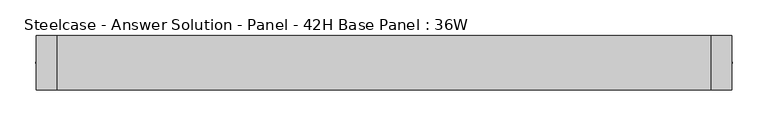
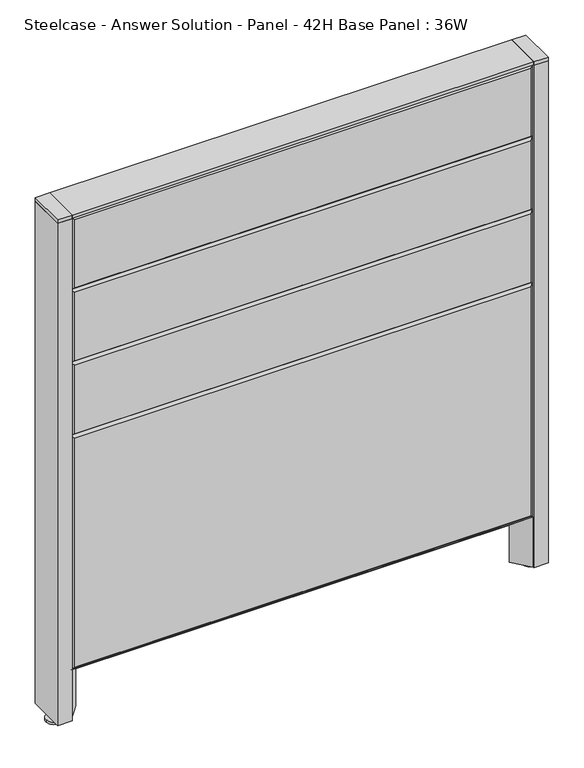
"""IFC4 building model written with IfcOpenShell, lengths in millimetres: furniture geometry, Steelcase - Answer Solution - Panel - 42H Base Panel : 36W."""

import ifcopenshell
import ifcopenshell.guid

model = None  # the IFC model being written
_history = None  # IfcOwnerHistory: only IFC2X3 demands one
_inside = {}  # id of a spatial element -> (the spatial element, [elements in it])
_under = {}  # id of a project, library or spatial element -> (it, [spatial elements below it])
_declared = {}  # id of a project -> (the project, [libraries it declares])
_typed = {}  # id of a type object -> (the type object, [elements of that type])
_made_of = {}  # id of a material, layer set ... -> (it, [elements and type objects made of it])


def new_model(schema):
    """Start an empty IFC model of exactly this schema.

    Asked for "IFC4X3", IfcOpenShell would pick the latest addendum, in which some entities
    have other attributes; the version numbers below select the first issue.
    IFC2X3 requires an IfcOwnerHistory on every rooted entity: one is made here for all.
    """
    global model, _history
    if schema == "IFC4X3":
        model = ifcopenshell.file(schema_version=(4, 3, 0, 0))
    else:
        model = ifcopenshell.file(schema=schema)
    _inside.clear()
    _under.clear()
    _declared.clear()
    _typed.clear()
    _made_of.clear()
    _history = None
    if model.schema == "IFC2X3":
        org = make("IfcOrganization", Name="unknown")
        user = make(
            "IfcPersonAndOrganization",
            ThePerson=make("IfcPerson", FamilyName="unknown"),
            TheOrganization=org,
        )
        app = make(
            "IfcApplication",
            ApplicationDeveloper=org,
            Version="unknown",
            ApplicationFullName="unknown",
            ApplicationIdentifier="unknown",
        )
        _history = make(
            "IfcOwnerHistory",
            OwningUser=user,
            OwningApplication=app,
            ChangeAction="ADDED",
            CreationDate=0,
        )
    return model


def make(cls, **values):
    """One entity of the class cls with the attributes given. An attribute that is None is left unset."""
    return model.create_entity(
        cls, **{name: value for name, value in values.items() if value is not None}
    )


def rooted(cls, **values):
    """An entity with a GlobalId (a new one), such as an element, a storey or a relation."""
    return make(cls, GlobalId=ifcopenshell.guid.new(), OwnerHistory=_history, **values)


def si_unit(unit_type, name, prefix=None):
    """IfcSIUnit, for example si_unit("LENGTHUNIT", "METRE", prefix="MILLI")."""
    return make("IfcSIUnit", UnitType=unit_type, Prefix=prefix, Name=name)


def assignment(units):
    """IfcUnitAssignment: the units of a project."""
    return None if units is None else make("IfcUnitAssignment", Units=units)


def point(xyz):
    """IfcCartesianPoint."""
    return None if xyz is None else make("IfcCartesianPoint", Coordinates=xyz)


def direction(xyz):
    """IfcDirection."""
    return None if xyz is None else make("IfcDirection", DirectionRatios=xyz)


def frame(location, z_axis=None, x_axis=None):
    """IfcAxis2Placement3D, a coordinate frame: its origin and axes. An axis left out is left unset."""
    return make(
        "IfcAxis2Placement3D",
        Location=point(location),
        Axis=direction(z_axis),
        RefDirection=direction(x_axis),
    )


def frame_2d(location, x_axis=None):
    """IfcAxis2Placement2D, a coordinate frame in the plane: its origin and x axis."""
    return make(
        "IfcAxis2Placement2D", Location=point(location), RefDirection=direction(x_axis)
    )


def origin():
    """The frame at (0, 0, 0) with its axes left unset."""
    return frame((0.0, 0.0, 0.0))


def place(relative_to, where):
    """IfcLocalPlacement: puts the frame where relative to a parent placement (None: the world)."""
    return make(
        "IfcLocalPlacement", PlacementRelTo=relative_to, RelativePlacement=where
    )


def context(
    kind, dimensions, precision=None, world=None, true_north=None, identifier=None
):
    """IfcGeometricRepresentationContext, for example the 3D "Model" context."""
    return make(
        "IfcGeometricRepresentationContext",
        ContextIdentifier=identifier,
        ContextType=kind,
        CoordinateSpaceDimension=dimensions,
        Precision=precision,
        WorldCoordinateSystem=world,
        TrueNorth=true_north,
    )


def project(units=None, contexts=None):
    """IfcProject with its units and contexts."""
    return rooted(
        "IfcProject",
        Name="project",
        RepresentationContexts=contexts,
        UnitsInContext=assignment(units),
    )


def spatial(cls, under=None, at=None, **own):
    """A site, building, storey or space (cls), placed at a placement, below another one or the project."""
    s = rooted(cls, ObjectPlacement=at, **own)
    if under is not None:
        _under.setdefault(under.id(), (under, []))[1].append(s)
    return s


def polyline(points):
    """IfcPolyline through the points."""
    return make("IfcPolyline", Points=[point(p) for p in points])


def circle_curve(where, radius):
    """IfcCircle in the frame where."""
    return make("IfcCircle", Position=where, Radius=radius)


def trimmed(basis, trim1, trim2, sense, master):
    """IfcTrimmedCurve: the piece of a basis curve between two trims."""
    return make(
        "IfcTrimmedCurve",
        BasisCurve=basis,
        Trim1=trim1,
        Trim2=trim2,
        SenseAgreement=sense,
        MasterRepresentation=master,
    )


def segment(curve, same_sense, transition):
    """IfcCompositeCurveSegment."""
    return make(
        "IfcCompositeCurveSegment",
        Transition=transition,
        SameSense=same_sense,
        ParentCurve=curve,
    )


def composite_curve(segments, self_intersect=None):
    """IfcCompositeCurve: segments joined end to end."""
    return make("IfcCompositeCurve", Segments=segments, SelfIntersect=self_intersect)


def outline(outer, holes=None, kind="AREA"):
    """IfcArbitraryClosedProfileDef: a profile drawn as a closed curve; with holes, ...WithVoids."""
    if holes is None:
        return make("IfcArbitraryClosedProfileDef", ProfileType=kind, OuterCurve=outer)
    return make(
        "IfcArbitraryProfileDefWithVoids",
        ProfileType=kind,
        OuterCurve=outer,
        InnerCurves=holes,
    )


def extrude(swept, where, along, depth):
    """IfcExtrudedAreaSolid: the profile swept, set in the frame where, extruded along a direction by depth."""
    return make(
        "IfcExtrudedAreaSolid",
        SweptArea=swept,
        Position=where,
        ExtrudedDirection=direction(along),
        Depth=depth,
    )


def faces_of(points, faces, orient=None, outer=None):
    """IfcFace entities. A face is a list of loops; a loop is a list of indices into points, from 0.

    orient and outer hold one flag for each loop. By default every Orientation is true, the
    first loop of a face is its IfcFaceOuterBound and the others are IfcFaceBound.
    """
    made = []
    for i, loops in enumerate(faces):
        bounds = []
        for j, loop in enumerate(loops):
            is_outer = j == 0 if outer is None else outer[i][j]
            bounds.append(
                make(
                    "IfcFaceOuterBound" if is_outer else "IfcFaceBound",
                    Bound=make("IfcPolyLoop", Polygon=[points[k] for k in loop]),
                    Orientation=True if orient is None else orient[i][j],
                )
            )
        made.append(make("IfcFace", Bounds=bounds))
    return made


def faceted_brep(points, faces, orient=None, outer=None, voids=None):
    """IfcFacetedBrep: a solid bounded by flat faces; with voids (closed shells), ...WithVoids."""
    shared = [point(p) for p in points]
    hull = make("IfcClosedShell", CfsFaces=faces_of(shared, faces, orient, outer))
    if voids is None:
        return make("IfcFacetedBrep", Outer=hull)
    return make(
        "IfcFacetedBrepWithVoids",
        Outer=hull,
        Voids=[
            make(cls, CfsFaces=faces_of(shared, fs, o, b)) for cls, fs, o, b in voids
        ],
    )


def shape(context_of_items, identifier, shape_type, items):
    """IfcShapeRepresentation: the items that make up one representation, for example the "Body"."""
    return make(
        "IfcShapeRepresentation",
        ContextOfItems=context_of_items,
        RepresentationIdentifier=identifier,
        RepresentationType=shape_type,
        Items=items,
    )


def source(mapping_origin, context_of_items, identifier, shape_type, items):
    """IfcRepresentationMap: a shape defined once, which mapped items show again and again."""
    return make(
        "IfcRepresentationMap",
        MappingOrigin=mapping_origin,
        MappedRepresentation=shape(context_of_items, identifier, shape_type, items),
    )


def transform(
    local_origin,
    x_axis=None,
    y_axis=None,
    z_axis=None,
    scale=None,
    scale2=None,
    scale3=None,
    uniform=True,
):
    """IfcCartesianTransformationOperator3D, or its non-uniform kind. x_axis, y_axis, z_axis: its Axis1, 2, 3."""
    if uniform:
        return make(
            "IfcCartesianTransformationOperator3D",
            Axis1=direction(x_axis),
            Axis2=direction(y_axis),
            LocalOrigin=point(local_origin),
            Scale=scale,
            Axis3=direction(z_axis),
        )
    return make(
        "IfcCartesianTransformationOperator3DnonUniform",
        Axis1=direction(x_axis),
        Axis2=direction(y_axis),
        LocalOrigin=point(local_origin),
        Scale=scale,
        Axis3=direction(z_axis),
        Scale2=scale2,
        Scale3=scale3,
    )


def mapped(mapping_source, mapping_target):
    """IfcMappedItem: shows the shape of a source again, moved by a transform."""
    return make(
        "IfcMappedItem", MappingSource=mapping_source, MappingTarget=mapping_target
    )


def made_of(thing, what):
    """Note that an element or type object is made of a material, layer set ...; save() writes the relation."""
    if what is not None:
        _made_of.setdefault(what.id(), (what, []))[1].append(thing)
    return thing


def element(
    cls,
    number,
    at=None,
    inside=None,
    cuts=None,
    type_object=None,
    material=None,
    context=None,
    identifier="Body",
    shape_type=None,
    held_by="IfcProductDefinitionShape",
    body=None,
    shapes=None,
    **own,
):
    """One element of the class cls, such as IfcWall. Its Tag is "e" and its number.

    at: its placement. inside: the storey or other place that contains it. cuts: it is an
    opening in that element (IfcRelVoidsElement). A single representation is given by context,
    identifier, shape_type and body (its items); several are given by shapes. held_by: the class
    of the entity that holds the representations. save() writes the other relations.
    """
    e = rooted(cls, Tag="e%d" % number, ObjectPlacement=at, **own)
    if body is not None:
        shapes = [shape(context, identifier, shape_type, body)]
    if shapes is not None:
        e.Representation = make(held_by, Representations=shapes)
    if inside is not None:
        _inside.setdefault(inside.id(), (inside, []))[1].append(e)
    if cuts is not None:
        rooted(
            "IfcRelVoidsElement", RelatingBuildingElement=cuts, RelatedOpeningElement=e
        )
    if type_object is not None:
        _typed.setdefault(type_object.id(), (type_object, []))[1].append(e)
    return made_of(e, material)


def aggregate(whole, parts):
    """IfcRelAggregates: a whole, such as a stair, and the parts it consists of."""
    return rooted("IfcRelAggregates", RelatingObject=whole, RelatedObjects=parts)


def save(model, path):
    """Write the relations noted so far, then the file.

    IfcRelAggregates (storeys below a building ...), IfcRelContainedInSpatialStructure (elements
    in a storey), IfcRelDefinesByType, IfcRelAssociatesMaterial and IfcRelDeclares: one each for
    every whole, place, type object, material and project.
    """
    for whole, parts in _under.values():
        aggregate(whole, parts)
    for where, things in _inside.values():
        rooted(
            "IfcRelContainedInSpatialStructure",
            RelatedElements=things,
            RelatingStructure=where,
        )
    for kind, things in _typed.values():
        rooted("IfcRelDefinesByType", RelatedObjects=things, RelatingType=kind)
    for what, things in _made_of.values():
        rooted("IfcRelAssociatesMaterial", RelatedObjects=things, RelatingMaterial=what)
    for by, libraries in _declared.values():
        rooted("IfcRelDeclares", RelatingContext=by, RelatedDefinitions=libraries)
    model.write(path)


def steelcase_answer_solution_panel_42h_base_panel_36w_f64cd9cb(model_context):
    return source(origin(), model_context, "Body", "SolidModel", [
        extrude(outline(composite_curve([segment(trimmed(circle_curve(frame_2d((471.424, 0.0039657)), 5.08), [point((476.504, 0.0039657))], [point((466.344, 0.0039657))], False, "CARTESIAN"), True, "CONTINUOUS"), segment(trimmed(circle_curve(frame_2d((471.424, 0.0039657)), 5.08), [point((466.344, 0.0039657))], [point((476.504, 0.0039657))], False, "CARTESIAN"), True, "CONTINUOUS")], self_intersect=False)), frame((0.0, 0.0, 5.0799671), z_axis=(0.0, 0.0, 1.0), x_axis=(1.0, 0.0, 0.0)), (0.0, 0.0, 1.0), 10.414),
        extrude(outline(composite_curve([segment(trimmed(circle_curve(frame_2d((471.424, 0.0039657)), 15.24), [point((486.664, 0.0039657))], [point((456.184, 0.0039657))], False, "CARTESIAN"), True, "CONTINUOUS"), segment(trimmed(circle_curve(frame_2d((471.424, 0.0039657)), 15.24), [point((456.184, 0.0039657))], [point((486.664, 0.0039657))], False, "CARTESIAN"), True, "CONTINUOUS")], self_intersect=False)), frame((0.0, 0.0, -3.29e-05), z_axis=(0.0, 0.0, 1.0), x_axis=(1.0, 0.0, 0.0)), (0.0, 0.0, 1.0), 5.08),
        extrude(outline(polyline([(485.775, 38.1039851), (485.775, -38.0960149), (457.2, -38.0960149), (457.2, 38.1039851), (485.775, 38.1039851)])), frame((0.0, 0.0, 1065.8348), z_axis=(0.0, 0.0, 1.0), x_axis=(1.0, 0.0, 0.0)), (0.0, 0.0, 1.0), 7.3151671),
        extrude(outline(polyline([(485.775, 38.1039851), (485.775, -38.0960149), (457.2, -38.0960149), (457.2, 38.1039851), (485.775, 38.1039851)])), frame((0.0, 0.0, 15.4939671), z_axis=(0.0, 0.0, 1.0), x_axis=(1.0, 0.0, 0.0)), (0.0, 0.0, 1.0), 1050.3408329),
        extrude(outline(composite_curve([segment(trimmed(circle_curve(frame_2d((-471.424, 0.0039657)), 5.08), [point((-476.504, 0.0039657))], [point((-466.344, 0.0039657))], False, "CARTESIAN"), True, "CONTINUOUS"), segment(trimmed(circle_curve(frame_2d((-471.424, 0.0039657)), 5.08), [point((-466.344, 0.0039657))], [point((-476.504, 0.0039657))], False, "CARTESIAN"), True, "CONTINUOUS")], self_intersect=False)), frame((0.0, 0.0, 5.0799671), z_axis=(0.0, 0.0, 1.0), x_axis=(1.0, 0.0, 0.0)), (0.0, 0.0, 1.0), 10.414),
        extrude(outline(composite_curve([segment(trimmed(circle_curve(frame_2d((-471.424, 0.0039657)), 15.24), [point((-486.664, 0.0039657))], [point((-456.184, 0.0039657))], False, "CARTESIAN"), True, "CONTINUOUS"), segment(trimmed(circle_curve(frame_2d((-471.424, 0.0039657)), 15.24), [point((-456.184, 0.0039657))], [point((-486.664, 0.0039657))], False, "CARTESIAN"), True, "CONTINUOUS")], self_intersect=False)), frame((0.0, 0.0, -3.29e-05), z_axis=(0.0, 0.0, 1.0), x_axis=(1.0, 0.0, 0.0)), (0.0, 0.0, 1.0), 5.08),
        extrude(outline(polyline([(-485.775, 38.1039851), (-457.2, 38.1039851), (-457.2, -38.0960149), (-485.775, -38.0960149), (-485.775, 38.1039851)])), frame((0.0, 0.0, 1065.8348), z_axis=(0.0, 0.0, 1.0), x_axis=(1.0, 0.0, 0.0)), (0.0, 0.0, 1.0), 7.3151671),
        extrude(outline(polyline([(-485.775, 38.1039851), (-457.2, 38.1039851), (-457.2, -38.0960149), (-485.775, -38.0960149), (-485.775, 38.1039851)])), frame((0.0, 0.0, 15.4939671), z_axis=(0.0, 0.0, 1.0), x_axis=(1.0, 0.0, 0.0)), (0.0, 0.0, 1.0), 1050.3408329),
        faceted_brep([(-452.374, 38.1635011, 1061.974), (452.374, 38.1635011, 1061.974), (452.374, 38.1635011, 919.226), (-452.374, 38.1635011, 919.226), (-457.2, 33.3375011, 1066.8), (-457.2, 33.3375011, 914.4), (457.2, 33.3375011, 914.4), (457.2, 33.3375011, 1066.8)], [[[0, 1, 2, 3]], [[4, 5, 6, 7]], [[4, 7, 1, 0]], [[7, 6, 2, 1]], [[6, 5, 3, 2]], [[5, 4, 0, 3]]]),
        faceted_brep([(-452.374, 38.1635011, 909.574), (452.374, 38.1635011, 909.574), (452.374, 38.1635011, 766.826), (-452.374, 38.1635011, 766.826), (-457.2, 33.3375011, 914.4), (-457.2, 33.3375011, 762.0), (457.2, 33.3375011, 762.0), (457.2, 33.3375011, 914.4)], [[[0, 1, 2, 3]], [[4, 5, 6, 7]], [[4, 7, 1, 0]], [[7, 6, 2, 1]], [[6, 5, 3, 2]], [[5, 4, 0, 3]]]),
        faceted_brep([(-452.374, 38.1635011, 757.174), (452.374, 38.1635011, 757.174), (452.374, 38.1635011, 614.426), (-452.374, 38.1635011, 614.426), (-457.2, 33.3375011, 762.0), (-457.2, 33.3375011, 609.6), (457.2, 33.3375011, 609.6), (457.2, 33.3375011, 762.0)], [[[0, 1, 2, 3]], [[4, 5, 6, 7]], [[4, 7, 1, 0]], [[7, 6, 2, 1]], [[6, 5, 3, 2]], [[5, 4, 0, 3]]]),
        faceted_brep([(-452.374, 38.1635011, 604.774), (452.374, 38.1635011, 604.774), (452.374, 38.1635011, 125.476), (-452.374, 38.1635011, 125.476), (-457.2, 33.3375011, 609.6), (-457.2, 33.3375011, 120.65), (457.2, 33.3375011, 120.65), (457.2, 33.3375011, 609.6)], [[[0, 1, 2, 3]], [[4, 5, 6, 7]], [[4, 7, 1, 0]], [[7, 6, 2, 1]], [[6, 5, 3, 2]], [[5, 4, 0, 3]]]),
        faceted_brep([(452.374, -38.1635011, 1061.974), (-452.374, -38.1635011, 1061.974), (-452.374, -38.1635011, 919.226), (452.374, -38.1635011, 919.226), (457.2, -33.3375011, 1066.8), (457.2, -33.3375011, 914.4), (-457.2, -33.3375011, 914.4), (-457.2, -33.3375011, 1066.8)], [[[0, 1, 2, 3]], [[4, 5, 6, 7]], [[4, 7, 1, 0]], [[7, 6, 2, 1]], [[6, 5, 3, 2]], [[5, 4, 0, 3]]]),
        faceted_brep([(452.374, -38.1635011, 909.574), (-452.374, -38.1635011, 909.574), (-452.374, -38.1635011, 766.826), (452.374, -38.1635011, 766.826), (457.2, -33.3375011, 914.4), (457.2, -33.3375011, 762.0), (-457.2, -33.3375011, 762.0), (-457.2, -33.3375011, 914.4)], [[[0, 1, 2, 3]], [[4, 5, 6, 7]], [[4, 7, 1, 0]], [[7, 6, 2, 1]], [[6, 5, 3, 2]], [[5, 4, 0, 3]]]),
        faceted_brep([(452.374, -38.1635011, 757.174), (-452.374, -38.1635011, 757.174), (-452.374, -38.1635011, 614.426), (452.374, -38.1635011, 614.426), (457.2, -33.3375011, 762.0), (457.2, -33.3375011, 609.6), (-457.2, -33.3375011, 609.6), (-457.2, -33.3375011, 762.0)], [[[0, 1, 2, 3]], [[4, 5, 6, 7]], [[4, 7, 1, 0]], [[7, 6, 2, 1]], [[6, 5, 3, 2]], [[5, 4, 0, 3]]]),
        faceted_brep([(452.374, -38.1635011, 604.774), (-452.374, -38.1635011, 604.774), (-452.374, -38.1635011, 125.476), (452.374, -38.1635011, 125.476), (457.2, -33.3375011, 609.6), (457.2, -33.3375011, 120.65), (-457.2, -33.3375011, 120.65), (-457.2, -33.3375011, 609.6)], [[[0, 1, 2, 3]], [[4, 5, 6, 7]], [[4, 7, 1, 0]], [[7, 6, 2, 1]], [[6, 5, 3, 2]], [[5, 4, 0, 3]]]),
        faceted_brep([(-457.2, -35.9841806, 15.4927343), (-457.2, 30.6908194, 15.4927343), (-429.26, -2.6466817, 15.4927343), (-457.2, -35.9841806, 120.65), (-457.2, 30.6908194, 120.65), (-429.26, -2.6466817, 92.71), (457.2, -35.9841806, 120.65), (457.2, 30.6908194, 120.65), (429.26, -2.6466817, 92.71), (457.2, -35.9841806, 15.4927343), (429.26, -2.6466817, 15.4927343), (457.2, 30.6908194, 15.4927343)], [[[0, 1, 2]], [[1, 0, 3, 4]], [[2, 1, 4, 5]], [[0, 2, 5, 3]], [[4, 3, 6, 7]], [[5, 4, 7, 8]], [[3, 5, 8, 6]], [[9, 10, 11]], [[7, 6, 9, 11]], [[8, 7, 11, 10]], [[6, 8, 10, 9]]]),
        extrude(outline(polyline([(457.2, 38.1000194), (457.2, -38.1000194), (-457.2, -38.1000194), (-457.2, 38.1000194), (457.2, 38.1000194)])), frame((0.0, 0.0, 1066.8), z_axis=(0.0, 0.0, 1.0), x_axis=(1.0, 0.0, 0.0)), (0.0, 0.0, 1.0), 6.35),
    ])


if __name__ == "__main__":
    model = new_model("IFC4")
    model_context = context("Model", 3, world=origin())
    ifc_project = project(units=[si_unit("LENGTHUNIT", "METRE", prefix="MILLI")], contexts=[model_context])
    site = spatial("IfcSite", under=ifc_project)
    building = spatial("IfcBuilding", under=site)
    placement = place(None, origin())
    steelcase_answer_solution_panel_42h_base_panel_36w_shape = steelcase_answer_solution_panel_42h_base_panel_36w_f64cd9cb(model_context)
    element("IfcFurniture", 1, ObjectType="Steelcase - Answer Solution - Panel - 42H Base Panel : 36W", at=placement, inside=building, context=model_context, shape_type="MappedRepresentation", body=[
        mapped(steelcase_answer_solution_panel_42h_base_panel_36w_shape, transform((0.0, 0.0, 0.0), x_axis=(1.0, 0.0, 0.0), y_axis=(0.0, 1.0, 0.0), z_axis=(0.0, 0.0, 1.0))),
    ])
    save(model, "model.ifc")
